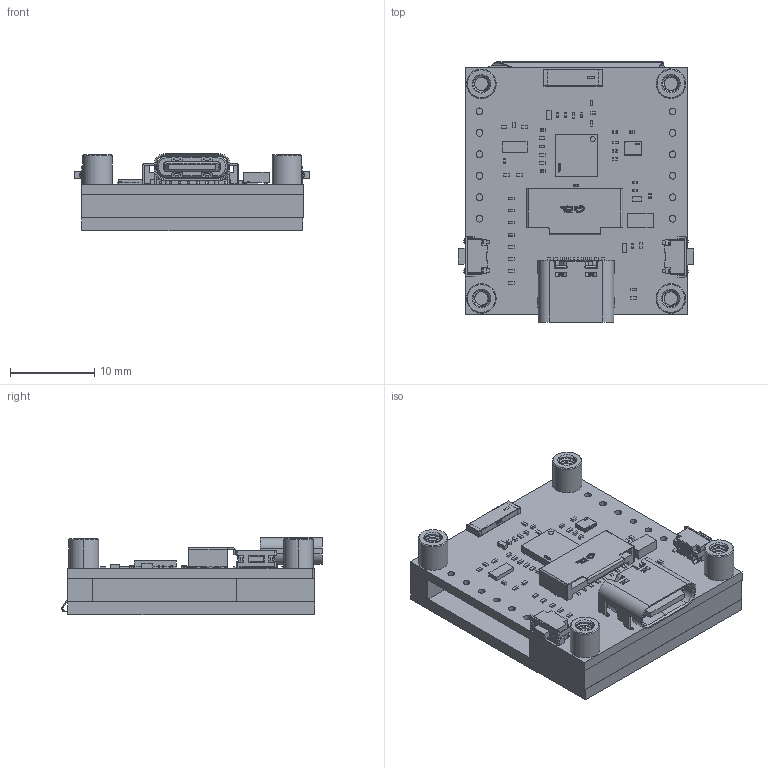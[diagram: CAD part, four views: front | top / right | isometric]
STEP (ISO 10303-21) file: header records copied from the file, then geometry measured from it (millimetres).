
FILE_DESCRIPTION((''),'2;1');
FILE_NAME('ESP32-C6-LCD-1-3_ASM','2026-09-22T19:17:09',('wuxiujuan'),(''),'CREO PARAMETRIC BY PTC INC, 2021063','CREO PARAMETRIC BY PTC INC, 2021063','');
FILE_SCHEMA(('CONFIG_CONTROL_DESIGN','SHAPE_APPEARANCE_LAYERS_GROUPS'));
Products named in the file (186): BOARD_1; USER_LIBRARY-CHIP_CAP_MLCC_0201; C23_ASM_1_ASM; EXTRUDED-8830_1; 861551712_ASM_1_ASM; Q1_ASM_1_ASM; C9_ASM_1_ASM; C19_ASM_1_ASM; C20_ASM_1_ASM; C14_ASM_1_ASM; C17_ASM_1_ASM; C7_ASM_1_ASM; EXTRUDED-9393_1; 861553616_ASM_1_ASM; U1_ASM_1_ASM; C3_ASM_1_ASM; C4_ASM_1_ASM; C6_ASM_1_ASM; C8_ASM_1_ASM; C10_ASM_1_ASM; C11_ASM_1_ASM; C12_ASM_1_ASM; C15_ASM_1_ASM; C16_ASM_1_ASM; C13_ASM_1_ASM; C21_ASM_1_ASM; C22_ASM_1_ASM; CYLINDER-10128_1; 219071760_ASM_1_ASM; EXTRUDED-10320_1; 861557152_ASM_1_ASM; U2_ASM_1_ASM; TYPE-C_16PIN-9X3X7_3_1_1; TYPE_C1_ASM_1_ASM; TF-SMD_TF-021B-H265_TF-SMD_TF_1; TF-SMD_TF-021B-H265_TF-SMD_TF_2; TF-SMD_TF-021B-H265_TF-SMD_TF_3; TF-SMD_TF-021B-H265_TF-SMD_TF_4; TF-SMD_TF-021B-H265_TF-SMD_TF_5; TF-SMD_TF-021B-H265_TF-SMD_TF_6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
Assembly tree (231 placements, depth 9):
  ESP32-C6-LCD-1-3_ASM
    ESP32C6-1_3_2__ASM-1_ASM
      ESP32C6-1_3_2__ASM_1_ASM
        PCB_1_ASM_1_ASM
          BOARD_1
          C23_ASM_1_ASM
            USER_LIBRARY-CHIP_CAP_MLCC_0201
          Q1_ASM_1_ASM
            861551712_ASM_1_ASM
              EXTRUDED-8830_1
          C9_ASM_1_ASM
            USER_LIBRARY-CHIP_CAP_MLCC_0201
          C19_ASM_1_ASM
            USER_LIBRARY-CHIP_CAP_MLCC_0201
          C20_ASM_1_ASM
            USER_LIBRARY-CHIP_CAP_MLCC_0201
          C14_ASM_1_ASM
            USER_LIBRARY-CHIP_CAP_MLCC_0201
          C17_ASM_1_ASM
            USER_LIBRARY-CHIP_CAP_MLCC_0201
          C7_ASM_1_ASM
            USER_LIBRARY-CHIP_CAP_MLCC_0201
          U1_ASM_1_ASM
            861553616_ASM_1_ASM
              EXTRUDED-9393_1
          C3_ASM_1_ASM
            USER_LIBRARY-CHIP_CAP_MLCC_0201
          C4_ASM_1_ASM
            USER_LIBRARY-CHIP_CAP_MLCC_0201
          C6_ASM_1_ASM
            USER_LIBRARY-CHIP_CAP_MLCC_0201
          C8_ASM_1_ASM
            USER_LIBRARY-CHIP_CAP_MLCC_0201
          C10_ASM_1_ASM
            USER_LIBRARY-CHIP_CAP_MLCC_0201
          C11_ASM_1_ASM
            USER_LIBRARY-CHIP_CAP_MLCC_0201
          C12_ASM_1_ASM
            USER_LIBRARY-CHIP_CAP_MLCC_0201
          C15_ASM_1_ASM
            USER_LIBRARY-CHIP_CAP_MLCC_0201
          C16_ASM_1_ASM
            USER_LIBRARY-CHIP_CAP_MLCC_0201
          C13_ASM_1_ASM
            USER_LIBRARY-CHIP_CAP_MLCC_0201
          C21_ASM_1_ASM
            USER_LIBRARY-CHIP_CAP_MLCC_0201
          C22_ASM_1_ASM
            USER_LIBRARY-CHIP_CAP_MLCC_0201
          U2_ASM_1_ASM
            219071760_ASM_1_ASM
              CYLINDER-10128_1
            861557152_ASM_1_ASM
              EXTRUDED-10320_1
          TYPE_C1_ASM_1_ASM
            TYPE-C_16PIN-9X3X7_3_1_1
          TF1_ASM_1_ASM
            _EASYEDA_PCB_MODEL0001_ASM_1_ASM
              TF-SMD_TF-021B-H265_TF-SMD_TF-0_ASM
                TF-SMD_TF-021B-H265_TF-SMD_TF_1
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Bounding box: 27.95 x 30.82 x 9.12 mm (x, y, z)
Volume: 3204.5 mm3; surface area: 6617.2 mm2
Topology: 193 solids, 202 shells, 4932 faces, 12656 edges, 8093 vertices
Faces by surface type: plane 3187, cylinder 835, extrusion 669, sphere 160, cone 33, bspline 32, torus 16
Entity records: 152079 total; most frequent: CARTESIAN_POINT 28917, ORIENTED_EDGE 18270, DIRECTION 16149, EDGE_CURVE 9135, PRESENTATION_STYLE_ASSIGNMENT 8919, STYLED_ITEM 8020, VECTOR 7649, CURVE_STYLE 7093
